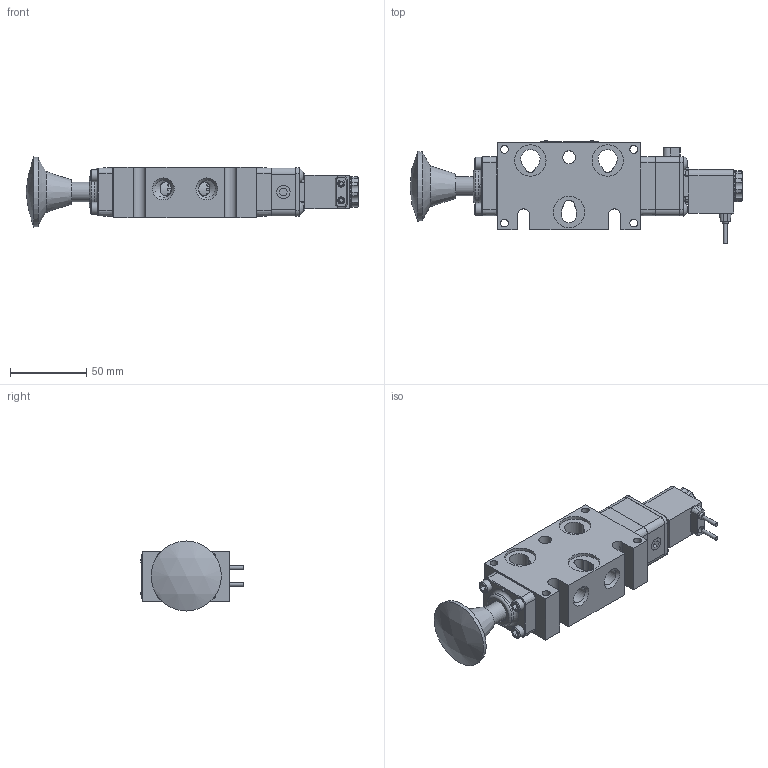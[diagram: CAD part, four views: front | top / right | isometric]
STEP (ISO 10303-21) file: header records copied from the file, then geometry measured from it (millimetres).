
FILE_DESCRIPTION(/* description */ (''),/* implementation_level */ '2;1');
FILE_NAME(/* name */ 'D:\Engineering\Product\valves\Assembly\Standard\ESAK\stp\EBSAK2MO.stp',/* time_stamp */ '2021-03-27T19:12:13-04:00',/* author */ ('RMcKenna'),/* organization */ (''),/* preprocessor_version */ 'ST-DEVELOPER v18.1',/* originating_system */ 'Autodesk Inventor 2021',/* authorisation */ '');
FILE_SCHEMA (('AUTOMOTIVE_DESIGN { 1 0 10303 214 3 1 1 }'));
Length unit declared in the file: centimetre
Products named in the file (1): Part16
Bounding box: 218.11 x 67.41 x 46.04 mm (x, y, z)
Volume: 218706.4 mm3; surface area: 82842.6 mm2
Topology: 1 solids, 26 shells, 1563 faces, 3891 edges, 2510 vertices
Faces by surface type: plane 644, cylinder 434, cone 272, torus 160, bspline 45, sphere 8
Full cylindrical faces by diameter (mm): 1.3 x1, 1.397 x1, 1.5 x2, 2.032 x4, 2.07 x2, 2.261 x2, 2.35 x4, 2.5 x1, 2.54 x2, 2.778 x2, 2.8 x1, 3 x4, 3.048 x2, 3.175 x1, 3.4 x1, 3.683 x10, 3.988 x1, 4.191 x2, 4.305 x1, 4.826 x8, 5.15 x4, 5.156 x12, 5.5 x1, 6.401 x2, 6.65 x1, 6.9 x1, 7.188 x1, 7.75 x1, 7.9 x1, 7.938 x4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
Entity records: 51450 total; most frequent: CARTESIAN_POINT 12065, DIRECTION 8237, ORIENTED_EDGE 7758, EDGE_CURVE 3879, AXIS2_PLACEMENT_3D 3245, VERTEX_POINT 2510, EDGE_LOOP 1781, LINE 1747
